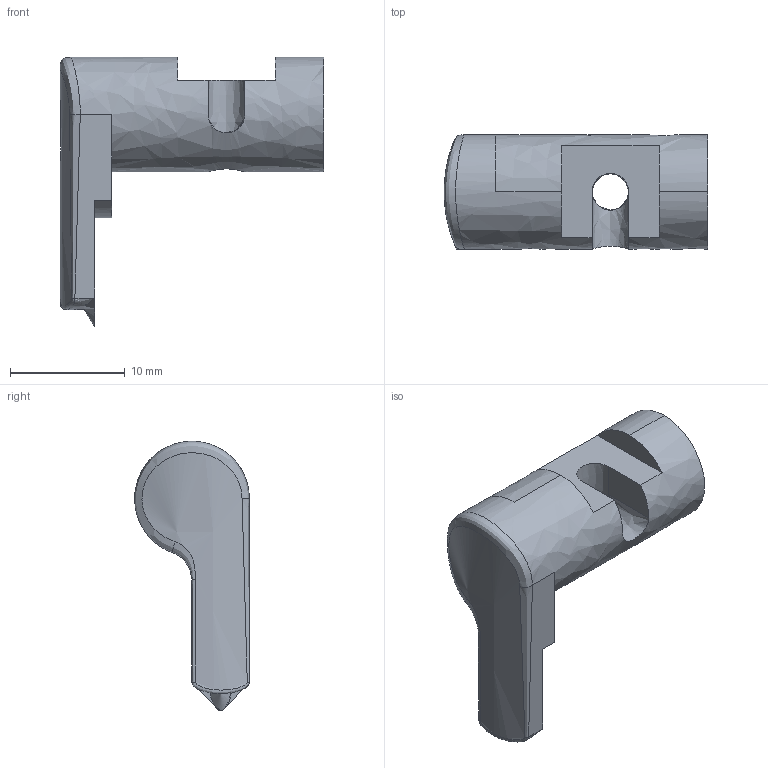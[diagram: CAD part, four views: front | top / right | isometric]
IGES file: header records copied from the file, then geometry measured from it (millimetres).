
Start section:  PTC IGES file: C:\Documents and Settings\audibk\personal\guns\walther\W alther_PPK\iges\sicherungshbl01.igs
Global section: file name: C:\Documents and Settings\audibk\personal\guns\walther\Walther_PPK\iges\sicherungshbl01.igs; native system: Pro/ENGINEER by Parametric Technology Corporation; preprocessor: 2002180; author: audibk; organization: Unknown; date: 030409.105323; units: millimetre
Bounding box: 23 x 10 x 23.5 mm (x, y, z)
Volume: 1834.9 mm3; surface area: 1111.4 mm2
Topology: 1 solids, 1 shells, 24 faces, 63 edges, 39 vertices
Faces by surface type: bspline 24
